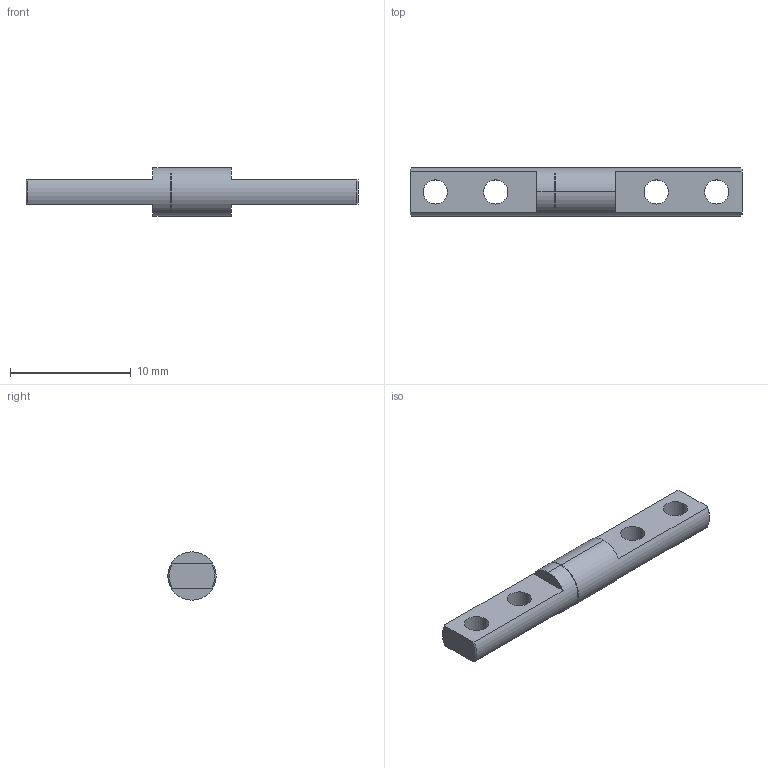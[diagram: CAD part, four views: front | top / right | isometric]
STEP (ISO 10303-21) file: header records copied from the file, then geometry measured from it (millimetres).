
FILE_DESCRIPTION (( 'STEP AP203' ), '1' );
FILE_NAME ('XG11-076-2.STEP', '2025-07-04T06:17:25', ( '微软用户' ), ( '微软中国' ), 'SwSTEP 2.0', 'SolidWorks 2024', '' );
FILE_SCHEMA (( 'CONFIG_CONTROL_DESIGN' ));
Length unit declared in the file: millimetre
Products named in the file (1): XG11-076-2
Bounding box: 27.5 x 4 x 4 mm (x, y, z)
Volume: 217.2 mm3; surface area: 365.2 mm2
Topology: 1 solids, 1 shells, 30 faces, 78 edges, 50 vertices
Faces by surface type: cylinder 12, plane 10, torus 4, cone 4
Entity records: 1037 total; most frequent: CARTESIAN_POINT 183, DIRECTION 174, ORIENTED_EDGE 156, EDGE_CURVE 78, AXIS2_PLACEMENT_3D 73, VERTEX_POINT 50, CIRCLE 42, EDGE_LOOP 38
